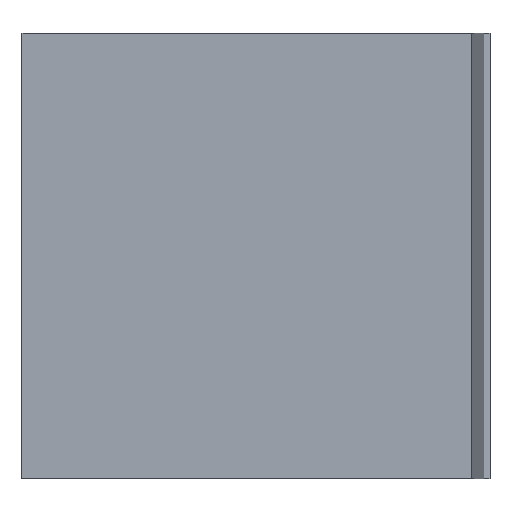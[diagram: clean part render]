
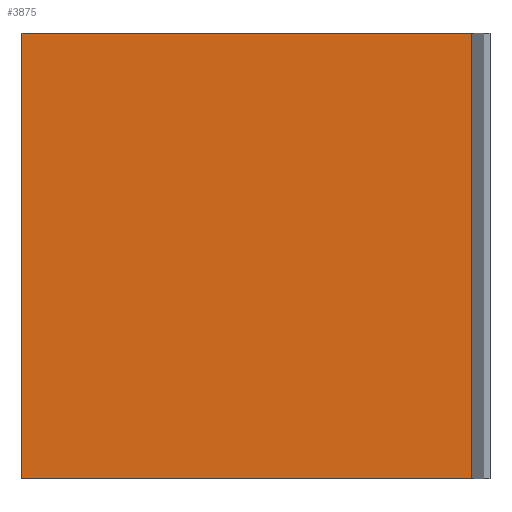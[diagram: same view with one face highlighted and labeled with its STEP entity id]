
A CAD part, left-side view. The second image highlights one B-rep face of the part: STEP entity #3875.
In plain terms, the highlighted planar face has unit normal (-1, 0, 0).
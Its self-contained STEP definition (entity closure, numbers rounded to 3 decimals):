
#48 = DIRECTION ( 'NONE',  ( 0., 0., 1. ) ) ;
#58 = CARTESIAN_POINT ( 'NONE',  ( -76.2, 19.97, 38. ) ) ;
#167 = CARTESIAN_POINT ( 'NONE',  ( -76.2, -18.36, 38. ) ) ;
#569 = EDGE_CURVE ( 'NONE', #6364, #6332, #2152, .T. ) ;
#833 = AXIS2_PLACEMENT_3D ( 'NONE', #1999, #5193, #6317 ) ;
#1476 = CARTESIAN_POINT ( 'NONE',  ( -76.2, 22.4, 38. ) ) ;
#1862 = CARTESIAN_POINT ( 'NONE',  ( -76.2, -18.36, 38. ) ) ;
#1876 = ORIENTED_EDGE ( 'NONE', *, *, #5705, .F. ) ;
#1999 = CARTESIAN_POINT ( 'NONE',  ( -76.2, -18.36, 38. ) ) ;
#2085 = LINE ( 'NONE', #4122, #3866 ) ;
#2116 = CARTESIAN_POINT ( 'NONE',  ( -76.2, 22.4, 0. ) ) ;
#2152 = LINE ( 'NONE', #2116, #3296 ) ;
#2513 = PLANE ( 'NONE',  #833 ) ;
#2868 = EDGE_CURVE ( 'NONE', #6364, #6609, #2085, .T. ) ;
#3296 = VECTOR ( 'NONE', #5378, 1000. ) ;
#3490 = CARTESIAN_POINT ( 'NONE',  ( -76.2, 19.97, 0. ) ) ;
#3600 = FACE_OUTER_BOUND ( 'NONE', #4144, .T. ) ;
#3680 = VECTOR ( 'NONE', #5936, 1000. ) ;
#3824 = VERTEX_POINT ( 'NONE', #1862 ) ;
#3866 = VECTOR ( 'NONE', #48, 1000. ) ;
#3875 = ADVANCED_FACE ( 'NONE', ( #3600 ), #2513, .F. ) ;
#4122 = CARTESIAN_POINT ( 'NONE',  ( -76.2, 19.97, 38. ) ) ;
#4140 = DIRECTION ( 'NONE',  ( 0., -1., 0. ) ) ;
#4144 = EDGE_LOOP ( 'NONE', ( #4427, #4621, #6299, #1876 ) ) ;
#4177 = LINE ( 'NONE', #1476, #4653 ) ;
#4427 = ORIENTED_EDGE ( 'NONE', *, *, #5188, .F. ) ;
#4621 = ORIENTED_EDGE ( 'NONE', *, *, #2868, .F. ) ;
#4653 = VECTOR ( 'NONE', #4140, 1000. ) ;
#5188 = EDGE_CURVE ( 'NONE', #6609, #3824, #4177, .T. ) ;
#5193 = DIRECTION ( 'NONE',  ( 1., 0., 0. ) ) ;
#5327 = LINE ( 'NONE', #167, #3680 ) ;
#5378 = DIRECTION ( 'NONE',  ( 0., -1., 0. ) ) ;
#5705 = EDGE_CURVE ( 'NONE', #3824, #6332, #5327, .T. ) ;
#5936 = DIRECTION ( 'NONE',  ( 0., 0., -1. ) ) ;
#6299 = ORIENTED_EDGE ( 'NONE', *, *, #569, .T. ) ;
#6317 = DIRECTION ( 'NONE',  ( 0., 1., 0. ) ) ;
#6332 = VERTEX_POINT ( 'NONE', #6479 ) ;
#6364 = VERTEX_POINT ( 'NONE', #3490 ) ;
#6479 = CARTESIAN_POINT ( 'NONE',  ( -76.2, -18.36, 0. ) ) ;
#6609 = VERTEX_POINT ( 'NONE', #58 ) ;
